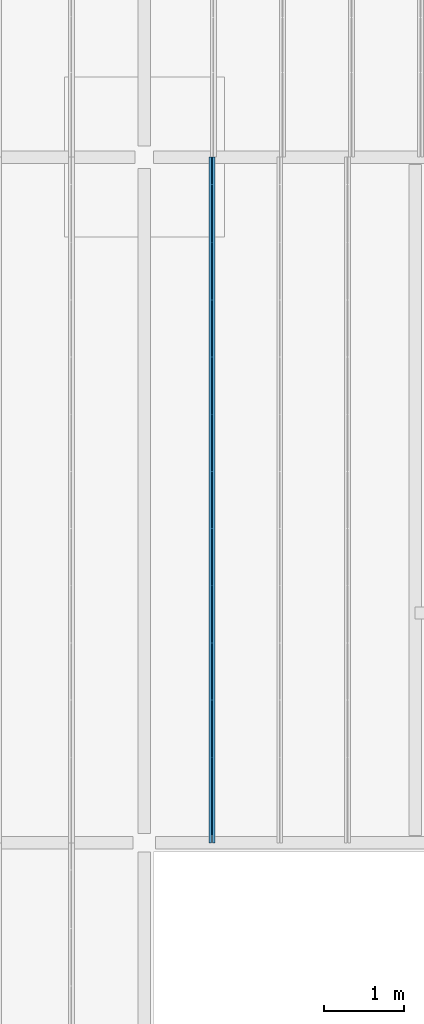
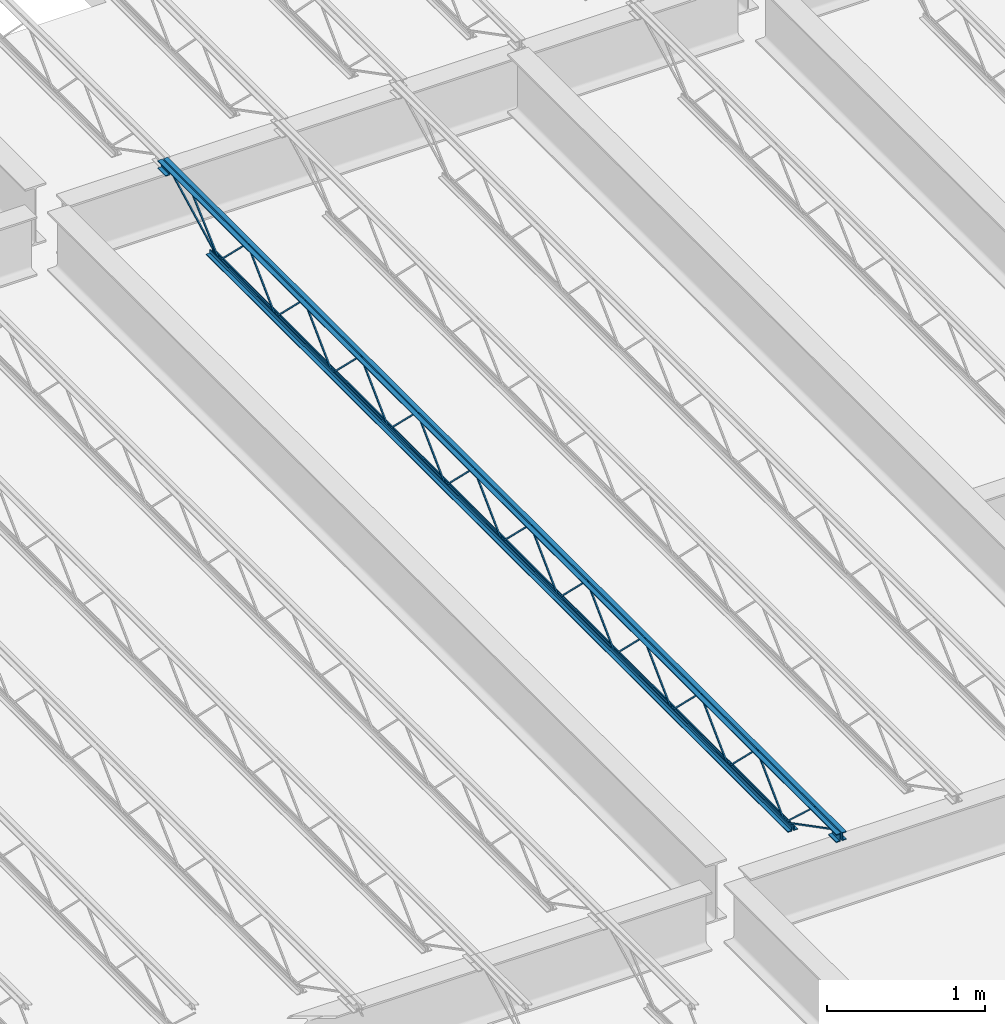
# One storey, part 17 of 75: 1 beam.
"""IFC2X3 building model written with IfcOpenShell, lengths in metres."""

from ifc_helpers import new_model, entity, si_unit, converted_unit, frame, origin, place, context, project, spatial, face_set, surface_model, element, save


model = new_model("IFC2X3")

# Units and contexts
model_context = context("Model", 3, precision=1e-09, world=origin())
plan_context = context("Plan", 3, precision=1e-09, world=origin())
ifc_project = project(units=[si_unit("LENGTHUNIT", "METRE"), si_unit("AREAUNIT", "SQUARE_METRE"), si_unit("VOLUMEUNIT", "CUBIC_METRE"), converted_unit("PLANEANGLEUNIT", "DEGREE", entity("IfcRatioMeasure", 0.01745329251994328), si_unit("PLANEANGLEUNIT", "RADIAN"), dimensions=[0, 0, 0, 0, 0, 0, 0]), si_unit("TIMEUNIT", "SECOND")], contexts=[model_context, plan_context])

# Site, building, storey
site_placement = place(None, origin())
site = spatial("IfcSite", under=ifc_project, at=site_placement, Name="Default", CompositionType="ELEMENT")
building_placement = place(site_placement, origin())
building = spatial("IfcBuilding", under=site, at=building_placement, CompositionType="ELEMENT")
storey_placement = place(building_placement, origin())
storey = spatial("IfcBuildingStorey", under=building, at=storey_placement, Name="First Floor", CompositionType="ELEMENT", Elevation=-3.531500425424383e-13)

# Beam
beam_placement = place(storey_placement, frame((-19.25051470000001, 10.03999999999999, 4.112000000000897), z_axis=(0.0, 0.0, 1.0), x_axis=(-1.0, 0.0, 0.0)))
element("IfcBeam", 1, at=beam_placement, inside=storey, Name="M_K-Series Bar Joist-Rod Web:14K1:14K1", ObjectType="M_K-Series Bar Joist-Rod Web:14K1", context=model_context, shape_type="SurfaceModel", body=[
    surface_model("IfcFaceBasedSurfaceModel", [(-0.03200000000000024, -2.141200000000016, 0.01110000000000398), (-0.04149999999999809, -2.141200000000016, 0.01110000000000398), (-0.04149999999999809, -2.141200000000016, 0.001600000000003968), (-0.03200000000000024, -2.141200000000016, 0.001600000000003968), (-0.04150000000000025, -2.139961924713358, 0.01110000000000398), (-0.03200000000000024, -2.139961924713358, 0.01110000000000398), (-0.04149999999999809, -2.136088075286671, 0.001600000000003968), (-0.04149999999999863, -1.785138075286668, 0.3449000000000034), (-0.04149999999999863, -1.782661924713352, 0.3449000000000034), (-0.04149999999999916, -1.431711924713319, 0.001600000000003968), (-0.04149999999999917, -1.426600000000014, 0.001600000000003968), (-0.04149999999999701, -1.426600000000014, 0.01110000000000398), (-0.04149999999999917, -1.427838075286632, 0.01110000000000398), (-0.04149999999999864, -1.77878807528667, 0.3544000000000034), (-0.04149999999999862, -1.789011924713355, 0.3544000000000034), (-0.03199999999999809, -2.136088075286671, 0.001600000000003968), (-0.03200000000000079, -1.785138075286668, 0.3449000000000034), (-0.03200000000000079, -1.782661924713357, 0.3449000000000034), (-0.03200000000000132, -1.431711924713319, 0.001600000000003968), (-0.03200000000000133, -1.426600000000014, 0.001600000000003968), (-0.03200000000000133, -1.426600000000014, 0.01110000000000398), (-0.03200000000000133, -1.427838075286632, 0.01110000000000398), (-0.03200000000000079, -1.778788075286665, 0.3544000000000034), (-0.03200000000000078, -1.789011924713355, 0.3544000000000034), (-0.03200000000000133, -2.855800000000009, 0.01110000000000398), (-0.04149999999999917, -2.855800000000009, 0.01110000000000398), (-0.04149999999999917, -2.855800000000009, 0.001600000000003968), (-0.03200000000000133, -2.855800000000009, 0.001600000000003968), (-0.04150000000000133, -2.854561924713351, 0.01110000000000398), (-0.03200000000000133, -2.854561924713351, 0.01110000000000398), (-0.04149999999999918, -2.850688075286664, 0.001600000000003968), (-0.04149999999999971, -2.499738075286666, 0.3449000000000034), (-0.04149999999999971, -2.497261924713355, 0.3449000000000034), (-0.04150000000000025, -2.146311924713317, 0.001600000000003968), (-0.04149999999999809, -2.141200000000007, 0.001600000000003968), (-0.04149999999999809, -2.141200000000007, 0.01110000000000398), (-0.04150000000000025, -2.14243807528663, 0.01110000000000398), (-0.04149999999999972, -2.493388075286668, 0.3544000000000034), (-0.0414999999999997, -2.503611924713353, 0.3544000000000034), (-0.03199999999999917, -2.850688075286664, 0.001600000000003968), (-0.03200000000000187, -2.499738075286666, 0.3449000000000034), (-0.03200000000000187, -2.497261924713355, 0.3449000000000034), (-0.0320000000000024, -2.146311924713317, 0.001600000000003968), (-0.03200000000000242, -2.141200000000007, 0.001600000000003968), (-0.03200000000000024, -2.141200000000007, 0.01110000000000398), (-0.03200000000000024, -2.14243807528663, 0.01110000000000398), (-0.03200000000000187, -2.493388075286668, 0.3544000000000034), (-0.03200000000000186, -2.503611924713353, 0.3544000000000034), (-0.03200000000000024, -3.570400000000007, 0.01110000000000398), (-0.04149999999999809, -3.570400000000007, 0.01110000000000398), (-0.04149999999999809, -3.570400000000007, 0.001600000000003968), (-0.03200000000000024, -3.570400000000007, 0.001600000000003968), (-0.04150000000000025, -3.569161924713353, 0.01110000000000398), (-0.03200000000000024, -3.569161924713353, 0.01110000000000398), (-0.04149999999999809, -3.565288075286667, 0.001600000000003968), (-0.04149999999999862, -3.214338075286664, 0.3449000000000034), (-0.04149999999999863, -3.211861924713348, 0.3449000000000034), (-0.04149999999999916, -2.860911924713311, 0.001600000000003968), (-0.04149999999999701, -2.855800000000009, 0.01110000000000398), (-0.04149999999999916, -2.857038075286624, 0.01110000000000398), (-0.04149999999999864, -3.207988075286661, 0.3544000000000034), (-0.04149999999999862, -3.218211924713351, 0.3544000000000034), (-0.03199999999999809, -3.565288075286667, 0.001600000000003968), (-0.03200000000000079, -3.214338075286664, 0.3449000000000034), (-0.03200000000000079, -3.211861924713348, 0.3449000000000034), (-0.03200000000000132, -2.860911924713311, 0.001600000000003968), (-0.03200000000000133, -2.857038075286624, 0.01110000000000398), (-0.03200000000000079, -3.207988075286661, 0.3544000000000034), (-0.03200000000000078, -3.218211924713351, 0.3544000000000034), (-0.03200000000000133, -4.285000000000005, 0.01110000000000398), (-0.04149999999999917, -4.285000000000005, 0.01110000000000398), (-0.04149999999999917, -4.285000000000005, 0.001600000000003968), (-0.03200000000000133, -4.285000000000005, 0.001600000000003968), (-0.04150000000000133, -4.283761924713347, 0.01110000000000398), (-0.03200000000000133, -4.283761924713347, 0.01110000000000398), (-0.04149999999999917, -4.27988807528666, 0.001600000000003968), (-0.0414999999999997, -3.928938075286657, 0.3449000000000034), (-0.04149999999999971, -3.92646192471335, 0.3449000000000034), (-0.04150000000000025, -3.575511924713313, 0.001600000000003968), (-0.04149999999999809, -3.570400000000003, 0.001600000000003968), (-0.04149999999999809, -3.570400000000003, 0.01110000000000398), (-0.04150000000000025, -3.571638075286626, 0.01110000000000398), (-0.04149999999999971, -3.922588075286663, 0.3544000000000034), (-0.0414999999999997, -3.932811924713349, 0.3544000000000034), (-0.03199999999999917, -4.27988807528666, 0.001600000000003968), (-0.03200000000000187, -3.928938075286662, 0.3449000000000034), (-0.03200000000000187, -3.92646192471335, 0.3449000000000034), (-0.0320000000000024, -3.575511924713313, 0.001600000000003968), (-0.03200000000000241, -3.570400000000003, 0.001600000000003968), (-0.03200000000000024, -3.570400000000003, 0.01110000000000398), (-0.03200000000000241, -3.571638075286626, 0.01110000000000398), (-0.03200000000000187, -3.922588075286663, 0.3544000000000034), (-0.03200000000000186, -3.932811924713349, 0.3544000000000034), (-0.03200000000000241, -4.999599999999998, 0.01110000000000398), (-0.04150000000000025, -4.999599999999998, 0.01110000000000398), (-0.04150000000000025, -4.999599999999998, 0.001600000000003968), (-0.03200000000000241, -4.999599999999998, 0.001600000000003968), (-0.04150000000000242, -4.998361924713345, 0.01110000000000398), (-0.03200000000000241, -4.998361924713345, 0.01110000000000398), (-0.04149999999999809, -4.994488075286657, 0.001600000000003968), (-0.04149999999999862, -4.643538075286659, 0.3449000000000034), (-0.04149999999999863, -4.641061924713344, 0.3449000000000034), (-0.04149999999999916, -4.290111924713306, 0.001600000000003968), (-0.04149999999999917, -4.285, 0.01110000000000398), (-0.04150000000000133, -4.28623807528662, 0.01110000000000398), (-0.04150000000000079, -4.637188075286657, 0.3544000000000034), (-0.04150000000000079, -4.647411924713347, 0.3544000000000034), (-0.03200000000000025, -4.994488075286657, 0.001600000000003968), (-0.03200000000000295, -4.643538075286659, 0.3449000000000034), (-0.03200000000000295, -4.641061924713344, 0.3449000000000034), (-0.03200000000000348, -4.290111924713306, 0.001600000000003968), (-0.03200000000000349, -4.285, 0.001600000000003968), (-0.03200000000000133, -4.28623807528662, 0.01110000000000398), (-0.03200000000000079, -4.637188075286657, 0.3544000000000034), (-0.03200000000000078, -4.647411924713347, 0.3544000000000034), (-0.03200000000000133, -5.714200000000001, 0.01110000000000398), (-0.04149999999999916, -5.714200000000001, 0.01110000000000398), (-0.04149999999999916, -5.714200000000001, 0.001600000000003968), (-0.03200000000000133, -5.714200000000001, 0.001600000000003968), (-0.04150000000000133, -5.712961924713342, 0.01110000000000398), (-0.03200000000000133, -5.712961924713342, 0.01110000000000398), (-0.04149999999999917, -5.709088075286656, 0.001600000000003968), (-0.0414999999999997, -5.358138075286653, 0.3449000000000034), (-0.04149999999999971, -5.355661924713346, 0.3449000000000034), (-0.04150000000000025, -5.004711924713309, 0.001600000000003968), (-0.04149999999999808, -4.999599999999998, 0.01110000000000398), (-0.04150000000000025, -5.000838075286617, 0.01110000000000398), (-0.04149999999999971, -5.351788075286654, 0.3544000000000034), (-0.0414999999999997, -5.36201192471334, 0.3544000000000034), (-0.03199999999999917, -5.709088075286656, 0.001600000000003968), (-0.03200000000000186, -5.358138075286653, 0.3449000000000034), (-0.03200000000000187, -5.355661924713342, 0.3449000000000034), (-0.0320000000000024, -5.004711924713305, 0.001600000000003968), (-0.0320000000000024, -5.000838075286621, 0.01110000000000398), (-0.03200000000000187, -5.351788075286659, 0.3544000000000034), (-0.03200000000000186, -5.36201192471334, 0.3544000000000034), (-0.03200000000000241, -6.428799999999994, 0.01110000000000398), (-0.04150000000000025, -6.428799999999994, 0.01110000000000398), (-0.04150000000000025, -6.428799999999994, 0.001600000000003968), (-0.03200000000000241, -6.428799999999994, 0.001600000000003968), (-0.04150000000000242, -6.42756192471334, 0.01110000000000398), (-0.03200000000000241, -6.42756192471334, 0.01110000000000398), (-0.04149999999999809, -6.423688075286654, 0.001600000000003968), (-0.04149999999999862, -6.072738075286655, 0.3449000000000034), (-0.04149999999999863, -6.070261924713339, 0.3449000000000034), (-0.04149999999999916, -5.719311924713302, 0.001600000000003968), (-0.04149999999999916, -5.714199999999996, 0.001600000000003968), (-0.04149999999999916, -5.714199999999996, 0.01110000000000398), (-0.04150000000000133, -5.715438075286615, 0.01110000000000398), (-0.04150000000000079, -6.066388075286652, 0.3544000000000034), (-0.04150000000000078, -6.076611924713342, 0.3544000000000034), (-0.03200000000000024, -6.423688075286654, 0.001600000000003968), (-0.03200000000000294, -6.072738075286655, 0.3449000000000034), (-0.03200000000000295, -6.070261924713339, 0.3449000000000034), (-0.03200000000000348, -5.719311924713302, 0.001600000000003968), (-0.03200000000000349, -5.714199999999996, 0.001600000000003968), (-0.03200000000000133, -5.714199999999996, 0.01110000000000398), (-0.03200000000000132, -5.715438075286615, 0.01110000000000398), (-0.03200000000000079, -6.066388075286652, 0.3544000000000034), (-0.03200000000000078, -6.076611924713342, 0.3544000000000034), (-0.03200000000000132, -7.143399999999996, 0.01110000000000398), (-0.04149999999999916, -7.143399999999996, 0.01110000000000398), (-0.04149999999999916, -7.143399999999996, 0.001600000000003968), (-0.03200000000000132, -7.143399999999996, 0.001600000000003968), (-0.04150000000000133, -7.142161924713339, 0.01110000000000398), (-0.03200000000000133, -7.142161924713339, 0.01110000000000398), (-0.04149999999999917, -7.138288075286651, 0.001600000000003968), (-0.0414999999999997, -6.787338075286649, 0.3449000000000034), (-0.0414999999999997, -6.784861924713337, 0.3449000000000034), (-0.04150000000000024, -6.4339119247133, 0.001600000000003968), (-0.04149999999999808, -6.428799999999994, 0.01110000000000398), (-0.04150000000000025, -6.430038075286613, 0.01110000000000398), (-0.04149999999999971, -6.780988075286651, 0.3544000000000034), (-0.0414999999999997, -6.791211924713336, 0.3544000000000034), (-0.03199999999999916, -7.138288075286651, 0.001600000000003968), (-0.03200000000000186, -6.787338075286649, 0.3449000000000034), (-0.03200000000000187, -6.784861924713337, 0.3449000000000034), (-0.0320000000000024, -6.4339119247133, 0.001600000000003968), (-0.0320000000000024, -6.430038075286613, 0.01110000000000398), (-0.03200000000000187, -6.780988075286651, 0.3544000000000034), (-0.03200000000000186, -6.791211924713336, 0.3544000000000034), (-0.03199999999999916, -1.426600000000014, 0.01109999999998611), (-0.04149999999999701, -1.426600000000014, 0.01109999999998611), (-0.04149999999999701, -1.426600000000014, 0.0015999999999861), (-0.03199999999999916, -1.426600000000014, 0.0015999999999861), (-0.04149999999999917, -1.42536192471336, 0.01109999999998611), (-0.03199999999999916, -1.42536192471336, 0.01109999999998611), (-0.04149999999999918, -1.421488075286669, 0.0015999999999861), (-0.04149999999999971, -1.07053807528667, 0.3448999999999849), (-0.04149999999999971, -1.068061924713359, 0.3448999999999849), (-0.04150000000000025, -0.7171119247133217, 0.0015999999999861), (-0.04149999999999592, -0.7120000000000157, 0.0015999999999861), (-0.04149999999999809, -0.7120000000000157, 0.01109999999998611), (-0.04150000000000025, -0.7132380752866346, 0.01109999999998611), (-0.04149999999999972, -1.064188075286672, 0.354399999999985), (-0.0414999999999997, -1.074411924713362, 0.354399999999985), (-0.03199999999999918, -1.421488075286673, 0.0015999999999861), (-0.0319999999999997, -1.070538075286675, 0.3448999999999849), (-0.0319999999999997, -1.068061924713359, 0.3448999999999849), (-0.03200000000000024, -0.7171119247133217, 0.0015999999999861), (-0.03200000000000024, -0.7120000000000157, 0.0015999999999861), (-0.03199999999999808, -0.7120000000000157, 0.01109999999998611), (-0.03199999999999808, -0.7132380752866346, 0.01109999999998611), (-0.03199999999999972, -1.064188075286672, 0.354399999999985), (-0.0319999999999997, -1.074411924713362, 0.354399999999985), (-0.0320000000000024, -7.85799999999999, 0.01110000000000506), (-0.04150000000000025, -7.85799999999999, 0.01110000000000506), (-0.04150000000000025, -7.85799999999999, 0.001600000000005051), (-0.0320000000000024, -7.85799999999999, 0.001600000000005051), (-0.04150000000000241, -7.856761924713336, 0.01110000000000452), (-0.03200000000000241, -7.856761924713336, 0.01110000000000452), (-0.04149999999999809, -7.852888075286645, 0.001600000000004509), (-0.04149999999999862, -7.501938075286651, 0.3449000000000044), (-0.04149999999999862, -7.499461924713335, 0.3449000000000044), (-0.04149999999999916, -7.148511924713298, 0.001600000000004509), (-0.04149999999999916, -7.143399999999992, 0.001600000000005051), (-0.04149999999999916, -7.143399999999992, 0.01110000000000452), (-0.04150000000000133, -7.14463807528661, 0.01110000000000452), (-0.04150000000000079, -7.495588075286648, 0.3544000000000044), (-0.04150000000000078, -7.505811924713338, 0.3544000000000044), (-0.03200000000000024, -7.852888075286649, 0.001600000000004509), (-0.03200000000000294, -7.501938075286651, 0.3449000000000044), (-0.03200000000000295, -7.499461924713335, 0.3449000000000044), (-0.03200000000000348, -7.148511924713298, 0.001600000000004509), (-0.03200000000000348, -7.143399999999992, 0.001600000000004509), (-0.03200000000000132, -7.143399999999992, 0.01110000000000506), (-0.03200000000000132, -7.14463807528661, 0.01110000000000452), (-0.03200000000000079, -7.495588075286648, 0.3544000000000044), (-0.03200000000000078, -7.505811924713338, 0.3544000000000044), (-0.04150000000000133, 0.0, 0.3559999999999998), (-0.07350000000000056, 0.0, 0.3559999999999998), (-0.07350000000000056, 0.0, 0.349499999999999), (-0.04800000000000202, 0.0, 0.349499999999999), (-0.04800000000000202, 0.0, 0.3239999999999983), (-0.04150000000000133, 0.0, 0.3239999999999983), (-0.03200000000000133, 0.0, 0.3559999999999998), (-0.03200000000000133, 0.0, 0.3239999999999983), (-0.02550000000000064, 0.0, 0.3239999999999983), (-0.02550000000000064, 0.0, 0.349499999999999), (0.0, 0.0, 0.349499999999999), (0.0, 0.0, 0.3559999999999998), (-0.04150000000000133, -8.569999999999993, 0.3559999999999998), (-0.07350000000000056, -8.569999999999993, 0.3559999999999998), (-0.07350000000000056, -8.569999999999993, 0.349499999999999), (-0.04800000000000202, -8.569999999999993, 0.349499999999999), (-0.04800000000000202, -8.569999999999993, 0.3239999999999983), (-0.04150000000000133, -8.569999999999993, 0.3239999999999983), (-0.03200000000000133, -8.569999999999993, 0.3559999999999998), (-0.03200000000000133, -8.569999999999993, 0.3239999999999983), (-0.02550000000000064, -8.569999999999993, 0.3239999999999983), (-0.02550000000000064, -8.569999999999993, 0.349499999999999), (0.0, -8.569999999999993, 0.349499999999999), (0.0, -8.569999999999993, 0.3559999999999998), (-0.03200000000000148, -8.470000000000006, 0.2924999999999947), (0.0, -8.470000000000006, 0.2924999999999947), (0.0, -8.470000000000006, 0.2989999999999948), (-0.02550000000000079, -8.470000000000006, 0.2989999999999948), (-0.02550000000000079, -8.470000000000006, 0.3239999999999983), (-0.03200000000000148, -8.470000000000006, 0.3239999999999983), (-0.0735000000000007, -8.470000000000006, 0.2924999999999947), (-0.04150000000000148, -8.470000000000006, 0.2924999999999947), (-0.04150000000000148, -8.470000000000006, 0.3239999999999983), (-0.04800000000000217, -8.470000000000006, 0.3239999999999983), (-0.04800000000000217, -8.470000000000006, 0.2989999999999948), (-0.0735000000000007, -8.470000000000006, 0.2989999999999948), (-0.03200000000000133, -8.569999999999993, 0.2924999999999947), (0.0, -8.569999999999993, 0.2924999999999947), (0.0, -8.569999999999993, 0.2989999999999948), (-0.02550000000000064, -8.569999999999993, 0.2989999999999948), (-0.07350000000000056, -8.569999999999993, 0.2924999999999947), (-0.04150000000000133, -8.569999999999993, 0.2924999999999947), (-0.04800000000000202, -8.569999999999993, 0.2989999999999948), (-0.07350000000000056, -8.569999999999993, 0.2989999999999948), (-0.04150000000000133, 0.0, 0.2924999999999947), (-0.04799999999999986, 0.0, 0.3239999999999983), (-0.04799999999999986, 0.0, 0.2989999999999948), (-0.07350000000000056, 0.0, 0.2989999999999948), (-0.07350000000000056, 0.0, 0.2924999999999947), (-0.03200000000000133, 0.0, 0.2924999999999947), (0.0, 0.0, 0.2924999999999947), (0.0, 0.0, 0.2989999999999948), (-0.02550000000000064, 0.0, 0.2989999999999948), (-0.04150000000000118, -0.09999999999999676, 0.2924999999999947), (-0.04150000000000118, -0.09999999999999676, 0.3239999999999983), (-0.0479999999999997, -0.09999999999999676, 0.3239999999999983), (-0.0479999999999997, -0.09999999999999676, 0.2989999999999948), (-0.07350000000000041, -0.09999999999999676, 0.2989999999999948), (-0.07350000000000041, -0.09999999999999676, 0.2924999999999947), (-0.03200000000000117, -0.09999999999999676, 0.2924999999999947), (0.0, -0.09999999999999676, 0.2924999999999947), (0.0, -0.09999999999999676, 0.2989999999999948), (-0.02550000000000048, -0.09999999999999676, 0.2989999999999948), (-0.02550000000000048, -0.09999999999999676, 0.3239999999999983), (-0.03200000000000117, -0.09999999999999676, 0.3239999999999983), (-0.04150000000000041, -0.6119999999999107, 0.0), (-0.04150000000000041, -0.6119999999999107, 0.03199999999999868), (-0.04800000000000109, -0.6119999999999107, 0.03199999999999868), (-0.04800000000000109, -0.6119999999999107, 0.006499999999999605), (-0.07349999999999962, -0.6119999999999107, 0.006499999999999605), (-0.07349999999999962, -0.6119999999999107, 0.0), (-0.0320000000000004, -0.6119999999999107, 0.0), (0.0, -0.6119999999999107, 0.0), (0.0, -0.6119999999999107, 0.006499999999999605), (-0.02549999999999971, -0.6119999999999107, 0.006499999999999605), (-0.02549999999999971, -0.6119999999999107, 0.03199999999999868), (-0.0320000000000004, -0.6119999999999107, 0.03199999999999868), (-0.04150000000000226, -7.957999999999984, 0.0), (-0.04150000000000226, -7.957999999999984, 0.03199999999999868), (-0.04800000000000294, -7.957999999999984, 0.03199999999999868), (-0.04800000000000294, -7.957999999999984, 0.006499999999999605), (-0.07350000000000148, -7.957999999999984, 0.006499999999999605), (-0.07350000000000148, -7.957999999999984, 0.0), (-0.03200000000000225, -7.957999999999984, 0.0), (0.0, -7.957999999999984, 0.0), (0.0, -7.957999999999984, 0.006499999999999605), (-0.02550000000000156, -7.957999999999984, 0.006499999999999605), (-0.02550000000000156, -7.957999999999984, 0.03199999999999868), (-0.03200000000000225, -7.957999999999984, 0.03199999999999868), (-0.03200000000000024, -7.855811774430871, 0.01056594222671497), (-0.04150000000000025, -7.855811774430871, 0.01056594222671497), (-0.04150000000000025, -7.860188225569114, 0.002134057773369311), (-0.0320000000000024, -7.860188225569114, 0.002134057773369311), (-0.03199999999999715, -8.468840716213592, 0.3287499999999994), (-0.031999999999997, -8.569999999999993, 0.3287499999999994), (-0.03199999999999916, -8.569999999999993, 0.3192499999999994), (-0.03199999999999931, -8.471159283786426, 0.3192499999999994), (-0.04149999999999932, -8.471159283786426, 0.3192499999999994), (-0.04149999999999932, -8.468840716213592, 0.3287499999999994), (-0.04149999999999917, -8.569999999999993, 0.3287499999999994), (-0.04149999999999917, -8.569999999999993, 0.3192499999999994), (-0.03200000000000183, -8.235257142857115, 0.341700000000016), (-0.04149999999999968, -8.235257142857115, 0.341700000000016), (-0.04149999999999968, -8.235257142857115, 0.332200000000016), (-0.03200000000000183, -8.235257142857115, 0.332200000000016), (-0.04150000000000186, -8.22072410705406, 0.341700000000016), (-0.03200000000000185, -8.220724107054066, 0.341700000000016), (-0.04149999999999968, -8.224390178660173, 0.332200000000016), (-0.04150000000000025, -7.861190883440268, 0.002831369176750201), (-0.04150000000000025, -7.854809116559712, 0.009868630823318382), (-0.03199999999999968, -8.224390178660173, 0.332200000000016), (-0.0320000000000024, -7.861190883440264, 0.002831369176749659), (-0.03200000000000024, -7.854809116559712, 0.009868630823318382), (-0.03199999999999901, -0.0978117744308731, 0.3197840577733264), (-0.03200000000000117, -0.1021882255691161, 0.3282159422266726), (-0.04150000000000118, -0.1021882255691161, 0.3282159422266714), (-0.04149999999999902, -0.0978117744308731, 0.3197840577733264), (-0.03199999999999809, -0.7098117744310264, 0.002134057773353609), (-0.03200000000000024, -0.7141882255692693, 0.01056594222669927), (-0.04150000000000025, -0.7141882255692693, 0.01056594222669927), (-0.04149999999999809, -0.7098117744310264, 0.002134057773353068), (-0.03199999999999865, -0.3369634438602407, 0.3461600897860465), (-0.03200000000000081, -0.3434079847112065, 0.3531399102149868), (-0.04150000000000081, -0.3434079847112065, 0.3531399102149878), (-0.04149999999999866, -0.3369634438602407, 0.3461600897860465), (-0.03199999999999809, -0.7087777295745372, 0.002860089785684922), (-0.03200000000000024, -0.7152222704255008, 0.009839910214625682), (-0.04150000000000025, -0.7152222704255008, 0.009839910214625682), (-0.04149999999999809, -0.7087777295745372, 0.002860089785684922)], [face_set([[[0, 1, 2, 3]], [[1, 4, 5, 0]], [[2, 6, 7, 8, 9, 10, 11, 12, 13, 14, 4, 1]], [[3, 2, 6, 15]], [[0, 3, 15, 16, 17, 18, 19, 20, 21, 22, 23, 5]], [[4, 5, 23, 14]], [[15, 16, 7, 6]], [[14, 13, 22, 23]], [[16, 7, 8, 17]], [[13, 12, 21, 22]], [[17, 8, 9, 18]], [[20, 11, 10, 19]], [[12, 11, 20, 21]], [[18, 9, 10, 19]]]), face_set([[[24, 25, 26, 27]], [[25, 28, 29, 24]], [[26, 30, 31, 32, 33, 34, 35, 36, 37, 38, 28, 25]], [[27, 26, 30, 39]], [[24, 27, 39, 40, 41, 42, 43, 44, 45, 46, 47, 29]], [[28, 29, 47, 38]], [[39, 40, 31, 30]], [[38, 37, 46, 47]], [[40, 31, 32, 41]], [[37, 36, 45, 46]], [[41, 32, 33, 42]], [[44, 35, 34, 43]], [[36, 35, 44, 45]], [[42, 33, 34, 43]]]), face_set([[[48, 49, 50, 51]], [[49, 52, 53, 48]], [[50, 54, 55, 56, 57, 26, 58, 59, 60, 61, 52, 49]], [[51, 50, 54, 62]], [[48, 51, 62, 63, 64, 65, 27, 24, 66, 67, 68, 53]], [[52, 53, 68, 61]], [[62, 63, 55, 54]], [[61, 60, 67, 68]], [[63, 55, 56, 64]], [[60, 59, 66, 67]], [[64, 56, 57, 65]], [[24, 58, 26, 27]], [[59, 58, 24, 66]], [[65, 57, 26, 27]]]), face_set([[[69, 70, 71, 72]], [[70, 73, 74, 69]], [[71, 75, 76, 77, 78, 79, 80, 81, 82, 83, 73, 70]], [[72, 71, 75, 84]], [[69, 72, 84, 85, 86, 87, 88, 89, 90, 91, 92, 74]], [[73, 74, 92, 83]], [[84, 85, 76, 75]], [[83, 82, 91, 92]], [[85, 76, 77, 86]], [[82, 81, 90, 91]], [[86, 77, 78, 87]], [[89, 80, 79, 88]], [[81, 80, 89, 90]], [[87, 78, 79, 88]]]), face_set([[[93, 94, 95, 96]], [[94, 97, 98, 93]], [[95, 99, 100, 101, 102, 71, 103, 104, 105, 106, 97, 94]], [[96, 95, 99, 107]], [[93, 96, 107, 108, 109, 110, 111, 69, 112, 113, 114, 98]], [[97, 98, 114, 106]], [[107, 108, 100, 99]], [[106, 105, 113, 114]], [[108, 100, 101, 109]], [[105, 104, 112, 113]], [[109, 101, 102, 110]], [[69, 103, 71, 111]], [[104, 103, 69, 112]], [[110, 102, 71, 111]]]), face_set([[[115, 116, 117, 118]], [[116, 119, 120, 115]], [[117, 121, 122, 123, 124, 95, 125, 126, 127, 128, 119, 116]], [[118, 117, 121, 129]], [[115, 118, 129, 130, 131, 132, 96, 93, 133, 134, 135, 120]], [[119, 120, 135, 128]], [[129, 130, 122, 121]], [[128, 127, 134, 135]], [[130, 122, 123, 131]], [[127, 126, 133, 134]], [[131, 123, 124, 132]], [[93, 125, 95, 96]], [[126, 125, 93, 133]], [[132, 124, 95, 96]]]), face_set([[[136, 137, 138, 139]], [[137, 140, 141, 136]], [[138, 142, 143, 144, 145, 146, 147, 148, 149, 150, 140, 137]], [[139, 138, 142, 151]], [[136, 139, 151, 152, 153, 154, 155, 156, 157, 158, 159, 141]], [[140, 141, 159, 150]], [[151, 152, 143, 142]], [[150, 149, 158, 159]], [[152, 143, 144, 153]], [[149, 148, 157, 158]], [[153, 144, 145, 154]], [[156, 147, 146, 155]], [[148, 147, 156, 157]], [[154, 145, 146, 155]]]), face_set([[[160, 161, 162, 163]], [[161, 164, 165, 160]], [[162, 166, 167, 168, 169, 138, 170, 171, 172, 173, 164, 161]], [[163, 162, 166, 174]], [[160, 163, 174, 175, 176, 177, 139, 136, 178, 179, 180, 165]], [[164, 165, 180, 173]], [[174, 175, 167, 166]], [[173, 172, 179, 180]], [[175, 167, 168, 176]], [[172, 171, 178, 179]], [[176, 168, 169, 177]], [[136, 170, 138, 139]], [[171, 170, 136, 178]], [[177, 169, 138, 139]]]), face_set([[[181, 182, 183, 184]], [[182, 185, 186, 181]], [[183, 187, 188, 189, 190, 191, 192, 193, 194, 195, 185, 182]], [[184, 183, 187, 196]], [[181, 184, 196, 197, 198, 199, 200, 201, 202, 203, 204, 186]], [[185, 186, 204, 195]], [[196, 197, 188, 187]], [[195, 194, 203, 204]], [[197, 188, 189, 198]], [[194, 193, 202, 203]], [[198, 189, 190, 199]], [[201, 192, 191, 200]], [[193, 192, 201, 202]], [[199, 190, 191, 200]]]), face_set([[[205, 206, 207, 208]], [[206, 209, 210, 205]], [[207, 211, 212, 213, 214, 215, 216, 217, 218, 219, 209, 206]], [[208, 207, 211, 220]], [[205, 208, 220, 221, 222, 223, 224, 225, 226, 227, 228, 210]], [[209, 210, 228, 219]], [[220, 221, 212, 211]], [[219, 218, 227, 228]], [[221, 212, 213, 222]], [[218, 217, 226, 227]], [[222, 213, 214, 223]], [[225, 216, 215, 224]], [[217, 216, 225, 226]], [[223, 214, 215, 224]]]), face_set([[[229, 230, 231, 232, 233, 234]], [[235, 236, 237, 238, 239, 240]], [[241, 242, 243, 244, 245, 246]], [[247, 248, 249, 250, 251, 252]], [[234, 229, 241, 246]], [[233, 234, 246, 245]], [[232, 244, 245, 233]], [[231, 232, 244, 243]], [[230, 242, 243, 231]], [[229, 241, 242, 230]], [[240, 252, 247, 235]], [[239, 240, 252, 251]], [[238, 239, 251, 250]], [[237, 238, 250, 249]], [[236, 237, 249, 248]], [[235, 247, 248, 236]]]), face_set([[[253, 254, 255, 256, 257, 258]], [[259, 260, 261, 262, 263, 264]], [[265, 266, 267, 268, 249, 248]], [[269, 270, 246, 245, 271, 272]], [[258, 248, 265, 253]], [[257, 249, 248, 258]], [[256, 257, 249, 268]], [[255, 267, 268, 256]], [[254, 255, 267, 266]], [[253, 254, 266, 265]], [[264, 272, 269, 259]], [[263, 271, 272, 264]], [[262, 245, 271, 263]], [[261, 246, 245, 262]], [[260, 261, 246, 270]], [[259, 260, 270, 269]]]), face_set([[[273, 234, 274, 275, 276, 277]], [[278, 279, 280, 281, 237, 236]], [[282, 283, 284, 285, 286, 287]], [[288, 289, 290, 291, 292, 293]], [[277, 273, 282, 287]], [[276, 286, 287, 277]], [[275, 285, 286, 276]], [[274, 284, 285, 275]], [[234, 283, 284, 274]], [[273, 234, 283, 282]], [[236, 293, 288, 278]], [[237, 292, 293, 236]], [[281, 237, 292, 291]], [[280, 290, 291, 281]], [[279, 280, 290, 289]], [[278, 279, 289, 288]]]), face_set([[[294, 295, 296, 297, 298, 299]], [[300, 301, 302, 303, 304, 305]], [[306, 307, 308, 309, 310, 311]], [[312, 313, 314, 315, 316, 317]], [[299, 294, 306, 311]], [[298, 310, 311, 299]], [[297, 309, 310, 298]], [[296, 308, 309, 297]], [[295, 307, 308, 296]], [[294, 295, 307, 306]], [[305, 317, 312, 300]], [[304, 316, 317, 305]], [[303, 304, 316, 315]], [[302, 314, 315, 303]], [[301, 302, 314, 313]], [[300, 301, 313, 312]]]), face_set([[[318, 319, 320, 321]], [[321, 318, 322, 323, 324, 325]], [[320, 321, 325, 326]], [[319, 327, 328, 329, 326, 320]], [[318, 322, 327, 319]], [[323, 328, 329, 324]], [[326, 325, 324, 329]], [[322, 323, 328, 327]]]), face_set([[[330, 331, 332, 333]], [[331, 334, 335, 330]], [[332, 336, 337, 338, 334, 331]], [[333, 332, 336, 339]], [[330, 333, 339, 340, 341, 335]], [[341, 338, 337, 340]], [[334, 338, 341, 335]], [[339, 336, 337, 340]]]), face_set([[[342, 343, 344, 345]], [[346, 347, 348, 349]], [[345, 349, 346, 342]], [[344, 348, 349, 345]], [[343, 344, 348, 347]], [[342, 343, 347, 346]]]), face_set([[[350, 351, 352, 353]], [[354, 355, 356, 357]], [[353, 357, 354, 350]], [[352, 356, 357, 353]], [[351, 352, 356, 355]], [[350, 351, 355, 354]]])]),
])

save(model, "model.ifc")
